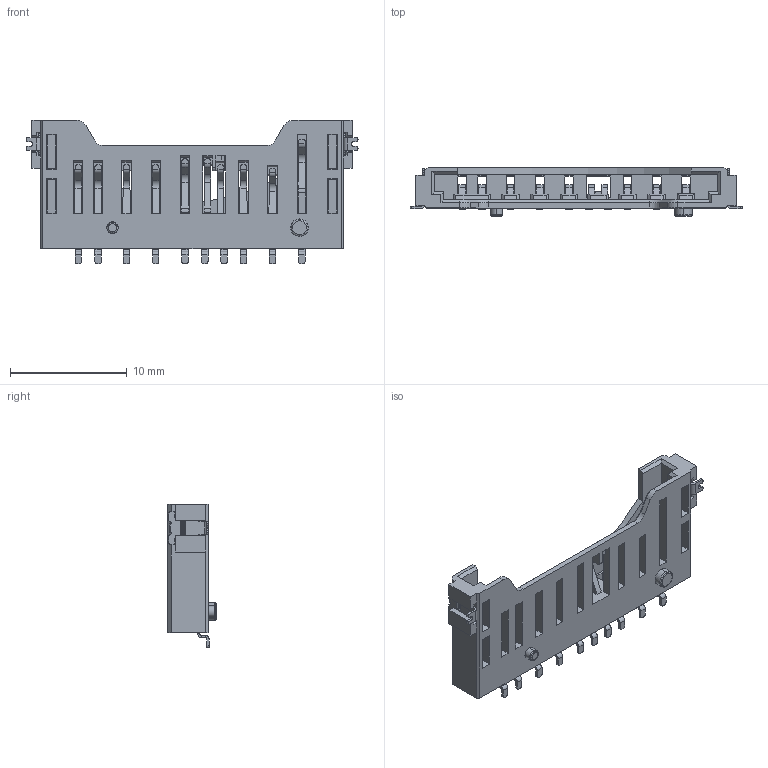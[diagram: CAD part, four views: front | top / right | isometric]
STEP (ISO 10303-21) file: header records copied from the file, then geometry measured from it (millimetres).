
FILE_DESCRIPTION((''),'2;1');
FILE_NAME('FSD02-101X0XX-012_SD_CARD_QS_A_','2025-11-25T',('PMT2 SFT'),(''),'PRO/ENGINEER BY PARAMETRIC TECHNOLOGY CORPORATION, 2011490','PRO/ENGINEER BY PARAMETRIC TECHNOLOGY CORPORATION, 2011490','');
FILE_SCHEMA(('CONFIG_CONTROL_DESIGN'));
Length unit declared in the file: millimetre
Products named in the file (1): FSD02-101X0XX-012_SD_CARD_QS_A_
Bounding box: 28.4 x 4.15 x 12.3 mm (x, y, z)
Volume: 421.2 mm3; surface area: 1350 mm2
Topology: 1 solids, 1 shells, 968 faces, 2542 edges, 1559 vertices
Faces by surface type: plane 682, cylinder 210, bspline 50, extrusion 14, torus 8, cone 4
Entity records: 31081 total; most frequent: CARTESIAN_POINT 7463, ORIENTED_EDGE 5084, DIRECTION 4574, EDGE_CURVE 2542, VECTOR 2040, LINE 2026, VERTEX_POINT 1559, AXIS2_PLACEMENT_3D 1267
